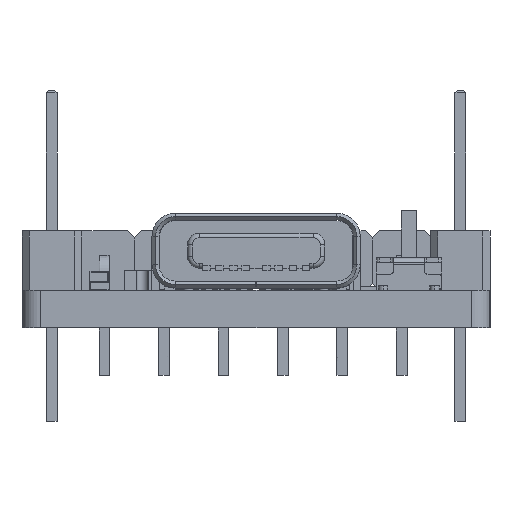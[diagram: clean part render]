
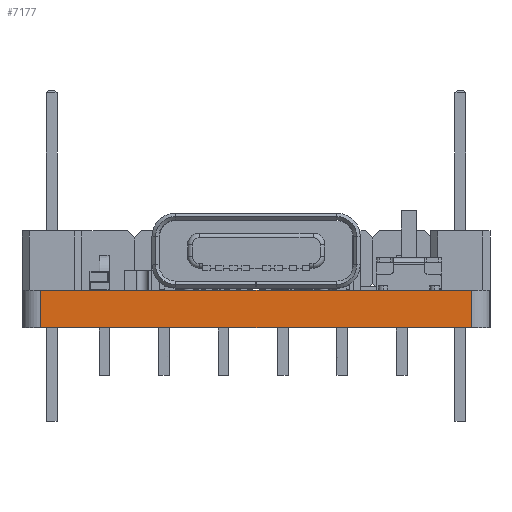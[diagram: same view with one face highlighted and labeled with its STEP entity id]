
A CAD part, left-side view. The second image highlights one B-rep face of the part: STEP entity #7177.
In plain terms, the highlighted planar face has unit normal (-1, 0, 0).
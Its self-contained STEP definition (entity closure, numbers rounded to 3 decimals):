
#7177=ADVANCED_FACE('',(#9823),#8769,.T.);
#8769=PLANE('',#33206);
#9823=FACE_OUTER_BOUND('',#11339,.T.);
#11339=EDGE_LOOP('',(#13080,#13081,#13082,#13083));
#13080=ORIENTED_EDGE('',*,*,#23488,.T.);
#13081=ORIENTED_EDGE('',*,*,#23489,.T.);
#13082=ORIENTED_EDGE('',*,*,#23490,.F.);
#13083=ORIENTED_EDGE('',*,*,#23491,.T.);
#20926=VERTEX_POINT('',#42554);
#20927=VERTEX_POINT('',#42555);
#20928=VERTEX_POINT('',#42557);
#20929=VERTEX_POINT('',#42559);
#23488=EDGE_CURVE('',#20926,#20927,#27411,.T.);
#23489=EDGE_CURVE('',#20927,#20928,#27412,.T.);
#23490=EDGE_CURVE('',#20929,#20928,#27413,.T.);
#23491=EDGE_CURVE('',#20929,#20926,#27414,.T.);
#27411=LINE('',#42553,#30308);
#27412=LINE('',#42556,#30309);
#27413=LINE('',#42558,#30310);
#27414=LINE('',#42560,#30311);
#30308=VECTOR('',#35357,1.);
#30309=VECTOR('',#35358,1.);
#30310=VECTOR('',#35359,1.);
#30311=VECTOR('',#35360,1.);
#33206=AXIS2_PLACEMENT_3D('',#42561,#35361,#35362);
#35357=DIRECTION('',(0.,0.,1.));
#35358=DIRECTION('',(0.,1.,0.));
#35359=DIRECTION('',(0.,0.,1.));
#35360=DIRECTION('',(0.,-1.,0.));
#35361=DIRECTION('',(-1.,0.,0.));
#35362=DIRECTION('',(0.,-1.,0.));
#42553=CARTESIAN_POINT('',(0.,0.959,0.));
#42554=CARTESIAN_POINT('',(0.,0.959,-1.189));
#42555=CARTESIAN_POINT('',(0.,0.959,0.411));
#42556=CARTESIAN_POINT('',(0.,0.8,0.411));
#42557=CARTESIAN_POINT('',(0.,19.361,0.411));
#42558=CARTESIAN_POINT('',(0.,19.361,0.));
#42559=CARTESIAN_POINT('',(0.,19.361,-1.189));
#42560=CARTESIAN_POINT('',(0.,0.799,-1.189));
#42561=CARTESIAN_POINT('',(0.,0.8,0.));
